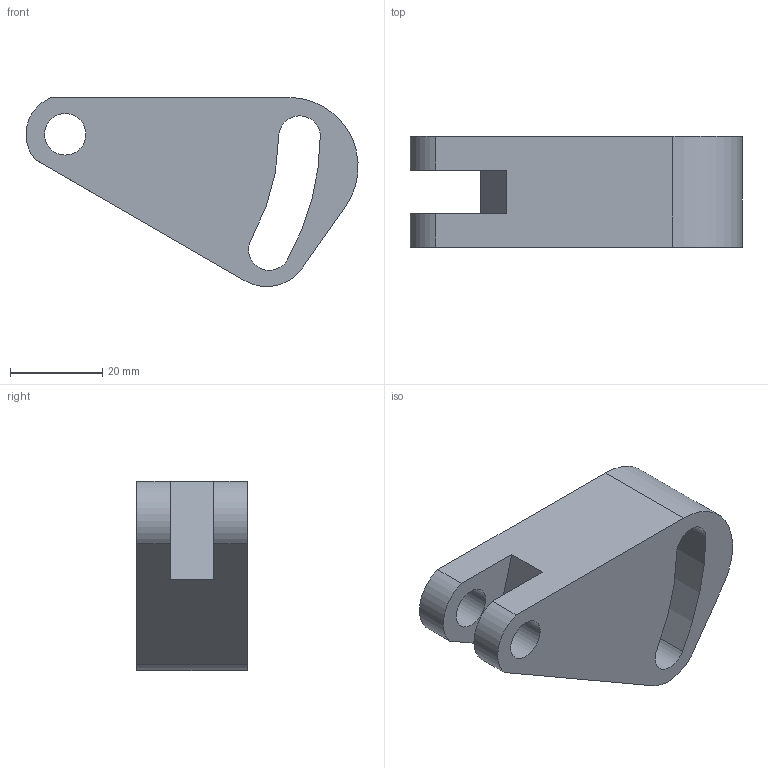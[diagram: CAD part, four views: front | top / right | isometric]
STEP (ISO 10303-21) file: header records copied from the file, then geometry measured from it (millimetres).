
FILE_DESCRIPTION((''),'2;1');
FILE_NAME('P1197','2012-03-13T',('jas'),(''),'PRO/ENGINEER BY PARAMETRIC TECHNOLOGY CORPORATION, 2011490','PRO/ENGINEER BY PARAMETRIC TECHNOLOGY CORPORATION, 2011490','');
FILE_SCHEMA(('AUTOMOTIVE_DESIGN { 1 0 10303 214 1 1 1 1 }'));
Length unit declared in the file: millimetre
Products named in the file (1): P1197
Bounding box: 71.96 x 24 x 41 mm (x, y, z)
Volume: 37475.1 mm3; surface area: 10269.7 mm2
Topology: 1 solids, 1 shells, 20 faces, 54 edges, 36 vertices
Faces by surface type: cylinder 12, plane 8
Entity records: 1194 total; most frequent: DIRECTION 118, CARTESIAN_POINT 112, ORIENTED_EDGE 108, PROPERTY_DEFINITION 59, REPRESENTATION 58, PROPERTY_DEFINITION_REPRESENTATION 58, PRESENTATION_STYLE_ASSIGNMENT 55, STYLED_ITEM 55
